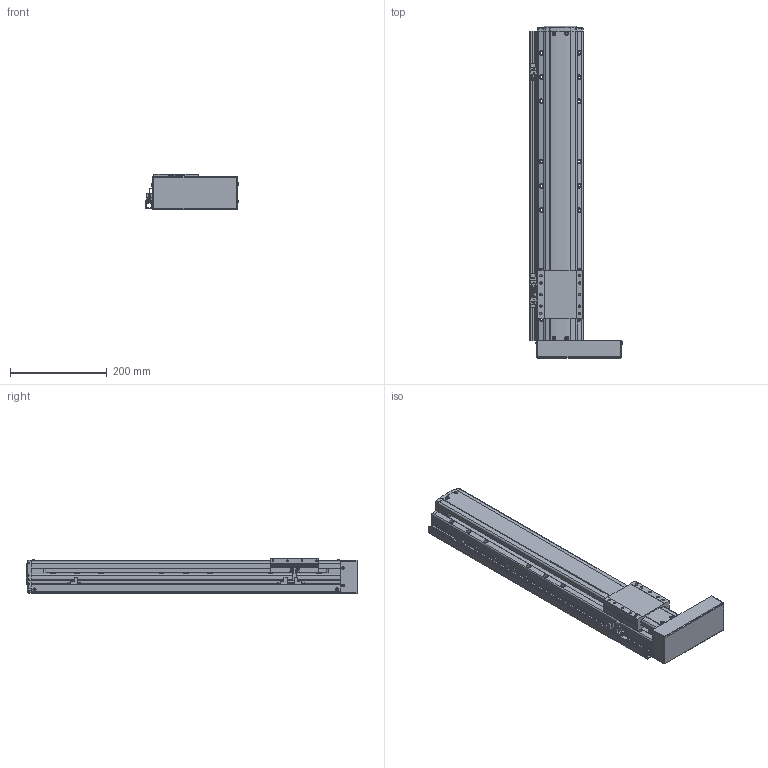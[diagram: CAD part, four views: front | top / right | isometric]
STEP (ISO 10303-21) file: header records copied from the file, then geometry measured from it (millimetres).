
FILE_DESCRIPTION(('STEP AP214'),'1');
FILE_NAME('Z:/Web/3D/PSA95/STP/PSA95-450 (3D)/PSA95ㅁㅁ-450PR+3SL.stp','2014-07-03T00:29:34',(' '),(' '),'Spatial InterOp 3D',' ',' ');
FILE_SCHEMA(('automotive_design'));
Length unit declared in the file: millimetre
Products named in the file (41): BASE; RRCV; 스크루 : Round - M4.0 x 10.0; 너트 : Square - M10.0 x 220.7419; RR1500; FRCV-090; 스크루 : Round - M4.0 x 6.0; SLBL-PA90; MOTOR PLATE COVER; 스크루 : Round - M3.0 x 6.0; EE-SX674; SBK-SX674-352; M3.0 x 6.0; SRL-16x17-380L; SGD-PA95; 스크루 : Round - M3.0 x 8.0
Bounding box: 192.06 x 686.5 x 74 mm (x, y, z)
Volume: 4021412 mm3; surface area: 493790 mm2
Topology: 41 solids, 41 shells, 2384 faces, 6354 edges, 4082 vertices
Faces by surface type: plane 1404, cylinder 667, cone 213, sphere 62, bspline 24, torus 14
Entity records: 95648 total; most frequent: CARTESIAN_POINT 15856, DIRECTION 12636, ORIENTED_EDGE 12452, EDGE_CURVE 6226, LINE 4284, VECTOR 4284, AXIS2_PLACEMENT_3D 4176, VERTEX_POINT 4082
